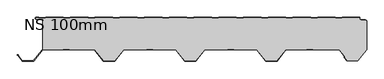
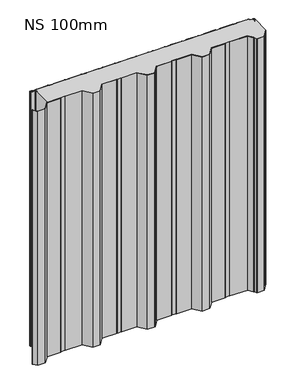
"""IFC4 building model written with IfcOpenShell, lengths in millimetres: plate geometry, KIP-MEX-KC-R19-CP-NS-SL : NS 100mm."""

from ifc_helpers import new_model, si_unit, point, frame, frame_2d, origin, origin_with_axes, place, context, project, spatial, polyline, circle_curve, trimmed, segment, composite_curve, outline, extrude, source, transform, mapped, element, save
from ifc_brep_helpers import plane_surface, cylinder_surface, revolved_surface, advanced_brep


def ns_100mm_bfbfd920(model_context):
    return source(origin(), model_context, "Body", "SolidModel", [
        advanced_brep(
        [(489.051258, -110.0327477, 1224.3718713), (491.4166419, -105.6292245, 1224.3718713), (492.2982989, -106.1011177, 1224.3718713), (489.8911639, -110.5823669, 1224.3718713), (498.3652789, -99.7971296, 1224.3718713), (498.3666923, -11.2514375, 1224.3718713), (496.0840542, -13.6351997, 1224.3718713), (490.2938452, -14.1562355, 1224.3718713), (490.2059002, -13.178913, 1224.3718713), (495.9395891, -12.6629632, 1224.3718713), (497.3642752, -10.8760369, 1224.3718713), (495.9342793, -8.8936988, 1224.3718713), (479.8720443, -7.4885937, 1224.3718713), (477.1334803, -4.5000049, 1224.3718713), (477.1334803, -1.0, 1224.3718713), (424.1786391, -1.0, 1224.3718713), (422.7930062, -2.2002307, 1224.3718713), (403.4178399, -2.2002307, 1224.3718713), (402.0322069, -1.0, 1224.3718713), (347.9787915, -1.0, 1224.3718713), (346.5931586, -2.2002307, 1224.3718713), (327.2179923, -2.2002307, 1224.3718713), (325.8323593, -1.0, 1224.3718713), (271.7789439, -1.0, 1224.3718713), (270.393311, -2.2002307, 1224.3718713), (251.0181447, -2.2002307, 1224.3718713), (249.6325117, -1.0, 1224.3718713), (195.5790963, -1.0, 1224.3718713), (194.1934634, -2.2002307, 1224.3718713), (174.8182971, -2.2002307, 1224.3718713), (173.4326641, -1.0, 1224.3718713), (119.3792487, -1.0, 1224.3718713), (117.9936158, -2.2002307, 1224.3718713), (98.6184495, -2.2002307, 1224.3718713), (97.2328165, -1.0, 1224.3718713), (43.1794011, -1.0, 1224.3718713), (41.7937682, -2.2002307, 1224.3718713), (22.4186019, -2.2002307, 1224.3718713), (21.0329689, -1.0, 1224.3718713), (-33.0204465, -1.0, 1224.3718713), (-34.4060794, -2.2002307, 1224.3718713), (-53.7812457, -2.2002307, 1224.3718713), (-55.1668787, -1.0, 1224.3718713), (-109.2202941, -1.0, 1224.3718713), (-110.605927, -2.2002307, 1224.3718713), (-129.9810933, -2.2002307, 1224.3718713), (-131.3667263, -1.0, 1224.3718713), (-185.4201417, -1.0, 1224.3718713), (-186.8057746, -2.2002307, 1224.3718713), (-206.1809409, -2.2002307, 1224.3718713), (-207.5665739, -1.0, 1224.3718713), (-261.6199893, -1.0, 1224.3718713), (-263.0056222, -2.2002307, 1224.3718713), (-282.3807885, -2.2002307, 1224.3718713), (-283.7664215, -1.0, 1224.3718713), (-337.8198369, -1.0, 1224.3718713), (-339.2054698, -2.2002307, 1224.3718713), (-358.5806361, -2.2002307, 1224.3718713), (-359.9662691, -1.0, 1224.3718713), (-414.0196845, -1.0, 1224.3718713), (-415.4053174, -2.2002307, 1224.3718713), (-434.7804837, -2.2002307, 1224.3718713), (-436.1661167, -1.0, 1224.3718713), (-490.2195321, -1.0, 1224.3718713), (-491.605165, -2.2002307, 1224.3718713), (-510.9803313, -2.2002307, 1224.3718713), (-512.365974, -0.9999916, 1224.3718713), (-520.8675386, -0.9999916, 1224.3718713), (-520.8675386, -2.4999198, 1224.3718713), (-518.3676343, -4.9998241, 1224.3718713), (-500.3670493, -4.9998241, 1224.3718713), (-497.3666912, -7.998082, 1224.3718713), (-497.3666912, -11.5943952, 1224.3718713), (-496.1253972, -13.0725686, 1224.3718713), (-492.5830624, -13.6943971, 1224.3718713), (-492.7559608, -14.6793372, 1224.3718713), (-496.2982963, -14.0575086, 1224.3718713), (-498.3666923, -11.5958694, 1224.3718713), (-498.3666923, -99.0, 1224.3718713), (-437.8440582, -99.0, 1224.3718713), (-436.4297751, -97.9999989, 1224.3718713), (-417.2222535, -97.9999989, 1224.3718713), (-415.8079704, -99.0, 1224.3718713), (-339.3089934, -99.0, 1224.3718713), (-311.8089635, -134.000038, 1224.3718713), (-277.7809961, -134.000038, 1224.3718713), (-250.2809663, -99.0, 1224.3718713), (-180.8128881, -99.0, 1224.3718713), (-179.398605, -97.9999989, 1224.3718713), (-160.1910833, -97.9999989, 1224.3718713), (-158.7768003, -99.0, 1224.3718713), (-89.3087221, -99.0, 1224.3718713), (-61.8086922, -134.000038, 1224.3718713), (-27.7807248, -134.000038, 1224.3718713), (-0.280695, -99.0, 1224.3718713), (69.1090864, -99.0, 1224.3718713), (70.1732653, -97.9999989, 1224.3718713), (89.809188, -97.9999989, 1224.3718713), (91.2234711, -99.0, 1224.3718713), (160.6915492, -99.0, 1224.3718713), (188.1915791, -134.000038, 1224.3718713), (222.2195465, -134.000038, 1224.3718713), (249.7195763, -99.0, 1224.3718713), (312.1567557, -99.0, 1224.3718713), (313.5710388, -97.9999989, 1224.3718713), (332.7785605, -97.9999989, 1224.3718713), (334.1928435, -99.0, 1224.3718713), (414.6918249, -99.0, 1224.3718713), (430.7058064, -119.3814311, 1224.3718713), (430.7058064, -123.199617, 1224.3718713), (438.4061363, -133.0000369, 1224.3718713), (471.0055308, -133.0000369, 1224.3718713), (489.051258, -110.0327477, 0.0), (471.0055308, -133.0000369, 0.0), (438.4061363, -133.0000369, 0.0), (430.7058064, -123.199617, 0.0), (430.7058064, -119.3814311, 0.0), (414.6918249, -99.0, 0.0), (334.1928435, -99.0, 0.0), (332.7785605, -97.9999989, 0.0), (313.5710388, -97.9999989, 0.0), (312.1567557, -99.0, 0.0), (249.7195763, -99.0, 0.0), (222.2195465, -134.000038, 0.0), (188.1915791, -134.000038, 0.0), (160.6915492, -99.0, 0.0), (91.2234711, -99.0, 0.0), (89.809188, -97.9999989, 0.0), (70.1732653, -97.9999989, 0.0), (69.1090864, -99.0, 0.0), (-0.280695, -99.0, 0.0), (-27.7807248, -134.000038, 0.0), (-61.8086922, -134.000038, 0.0), (-89.3087221, -99.0, 0.0), (-158.7768003, -99.0, 0.0), (-160.1910833, -97.9999989, 0.0), (-179.398605, -97.9999989, 0.0), (-180.8128881, -99.0, 0.0), (-250.2809663, -99.0, 0.0), (-277.7809961, -134.000038, 0.0), (-311.8089635, -134.000038, 0.0), (-339.3089934, -99.0, 0.0), (-415.8079704, -99.0, 0.0), (-417.2222535, -97.9999989, 0.0), (-436.4297751, -97.9999989, 0.0), (-437.8440582, -99.0, 0.0), (-498.3666923, -99.0, 0.0), (-498.3666923, -11.5958694, 0.0), (-496.2982963, -14.0575086, 0.0), (-492.7559608, -14.6793372, 0.0), (-492.5830624, -13.6943971, 0.0), (-496.1253972, -13.0725686, 0.0), (-497.3666912, -11.5943952, 0.0), (-497.3666912, -7.998082, 0.0), (-500.3670493, -4.9998241, 0.0), (-518.3676343, -4.9998241, 0.0), (-520.8675386, -2.4999198, 0.0), (-520.8675386, -0.9999916, 0.0), (-512.365974, -0.9999916, 0.0), (-510.9803313, -2.2002307, 0.0), (-491.605165, -2.2002307, 0.0), (-490.2195321, -1.0, 0.0), (-436.1661167, -1.0, 0.0), (-434.7804837, -2.2002307, 0.0), (-415.4053174, -2.2002307, 0.0), (-414.0196845, -1.0, 0.0), (-359.9662691, -1.0, 0.0), (-358.5806361, -2.2002307, 0.0), (-339.2054698, -2.2002307, 0.0), (-337.8198369, -1.0, 0.0), (-283.7664215, -1.0, 0.0), (-282.3807885, -2.2002307, 0.0), (-263.0056222, -2.2002307, 0.0), (-261.6199893, -1.0, 0.0), (-207.5665739, -1.0, 0.0), (-206.1809409, -2.2002307, 0.0), (-186.8057746, -2.2002307, 0.0), (-185.4201417, -1.0, 0.0), (-131.3667263, -1.0, 0.0), (-129.9810933, -2.2002307, 0.0), (-110.605927, -2.2002307, 0.0), (-109.2202941, -1.0, 0.0), (-55.1668787, -1.0, 0.0), (-53.7812457, -2.2002307, 0.0), (-34.4060794, -2.2002307, 0.0), (-33.0204465, -1.0, 0.0), (21.0329689, -1.0, 0.0), (22.4186019, -2.2002307, 0.0), (41.7937682, -2.2002307, 0.0), (43.1794011, -1.0, 0.0), (97.2328165, -1.0, 0.0), (98.6184495, -2.2002307, 0.0), (117.9936158, -2.2002307, 0.0), (119.3792487, -1.0, 0.0), (173.4326641, -1.0, 0.0), (174.8182971, -2.2002307, 0.0), (194.1934634, -2.2002307, 0.0), (195.5790963, -1.0, 0.0), (249.6325117, -1.0, 0.0), (251.0181447, -2.2002307, 0.0), (270.393311, -2.2002307, 0.0), (271.7789439, -1.0, 0.0), (325.8323593, -1.0, 0.0), (327.2179923, -2.2002307, 0.0), (346.5931586, -2.2002307, 0.0), (347.9787915, -1.0, 0.0), (402.0322069, -1.0, 0.0), (403.4178399, -2.2002307, 0.0), (422.7930062, -2.2002307, 0.0), (424.1786391, -1.0, 0.0), (477.1334803, -1.0, 0.0), (477.1334803, -4.5000049, 0.0), (479.8720443, -7.4885937, 0.0), (495.9342793, -8.8936988, 0.0), (497.3642752, -10.8760369, 0.0), (495.9395891, -12.6629632, 0.0), (490.2059002, -13.178913, 0.0), (490.2938452, -14.1562355, 0.0), (496.0840542, -13.6351997, 0.0), (498.3666923, -11.2514375, 0.0), (498.3652789, -99.7971296, 0.0), (489.8911639, -110.5823669, 0.0), (492.2982989, -106.1011177, 0.0), (491.4166419, -105.6292245, 0.0)],
        [
            (0, 1),
            (1, 2),
            (2, 3),
            (3, 4),
            (4, 5),
            (5, 6, circle_curve(frame((495.5554081, -10.8441969, 1224.3718713), z_axis=(0.0, 0.0, -1.0), x_axis=(0.0, -1.0, 0.0)), 2.8406273)),
            (6, 7),
            (7, 8),
            (8, 9),
            (9, 10, circle_curve(frame((495.560247, -10.8991179, 1224.3718713), z_axis=(0.0, 0.0, 1.0), x_axis=(0.0, -1.0, 0.0)), 1.8041759)),
            (10, 11, circle_curve(frame((495.5292107, -10.6928483, 1224.3718713), z_axis=(0.0, 0.0, 1.0), x_axis=(0.0, -1.0, 0.0)), 1.8441854)),
            (11, 12),
            (12, 13, circle_curve(frame((480.1334825, -4.5000049, 1224.3718713), z_axis=(0.0, 0.0, -1.0), x_axis=(0.0, -1.0, 0.0)), 3.0000022)),
            (13, 14),
            (14, 15),
            (15, 16),
            (16, 17),
            (17, 18),
            (18, 19),
            (19, 20),
            (20, 21),
            (21, 22),
            (22, 23),
            (23, 24),
            (24, 25),
            (25, 26),
            (26, 27),
            (27, 28),
            (28, 29),
            (29, 30),
            (30, 31),
            (31, 32),
            (32, 33),
            (33, 34),
            (34, 35),
            (35, 36),
            (36, 37),
            (37, 38),
            (38, 39),
            (39, 40),
            (40, 41),
            (41, 42),
            (42, 43),
            (43, 44),
            (44, 45),
            (45, 46),
            (46, 47),
            (47, 48),
            (48, 49),
            (49, 50),
            (50, 51),
            (51, 52),
            (52, 53),
            (53, 54),
            (54, 55),
            (55, 56),
            (56, 57),
            (57, 58),
            (58, 59),
            (59, 60),
            (60, 61),
            (61, 62),
            (62, 63),
            (63, 64),
            (64, 65),
            (65, 66),
            (66, 67),
            (67, 68),
            (68, 69, circle_curve(frame((-518.3676343, -2.4999198, 1224.3718713), z_axis=(0.0, 0.0, 1.0), x_axis=(0.0, -1.0, 0.0)), 2.4999043)),
            (69, 70),
            (70, 71, circle_curve(frame((-500.3670493, -8.0001829, 1224.3718713), z_axis=(0.0, 0.0, -1.0), x_axis=(0.0, -1.0, 0.0)), 3.0003589)),
            (71, 72),
            (72, 73, circle_curve(frame((-495.8659157, -11.5943952, 1224.3718713), z_axis=(0.0, 0.0, 1.0), x_axis=(0.0, -1.0, 0.0)), 1.5007755)),
            (73, 74),
            (74, 75),
            (75, 76),
            (76, 77, circle_curve(frame((-495.8659164, -11.5943948, 1224.3718713), z_axis=(0.0, 0.0, -1.0), x_axis=(0.0, -1.0, 0.0)), 2.5007762)),
            (77, 78),
            (78, 79),
            (79, 80),
            (80, 81),
            (81, 82),
            (82, 83),
            (83, 84),
            (84, 85),
            (85, 86),
            (86, 87),
            (87, 88),
            (88, 89),
            (89, 90),
            (90, 91),
            (91, 92),
            (92, 93),
            (93, 94),
            (94, 95),
            (95, 96),
            (96, 97),
            (97, 98),
            (98, 99),
            (99, 100),
            (100, 101),
            (101, 102),
            (102, 103),
            (103, 104),
            (104, 105),
            (105, 106),
            (106, 107),
            (107, 108),
            (108, 109),
            (109, 110),
            (110, 111),
            (111, 0),
            (112, 113),
            (113, 114),
            (114, 115),
            (115, 116),
            (116, 117),
            (117, 118),
            (118, 119),
            (119, 120),
            (120, 121),
            (121, 122),
            (122, 123),
            (123, 124),
            (124, 125),
            (125, 126),
            (126, 127),
            (127, 128),
            (128, 129),
            (129, 130),
            (130, 131),
            (131, 132),
            (132, 133),
            (133, 134),
            (134, 135),
            (135, 136),
            (136, 137),
            (137, 138),
            (138, 139),
            (139, 140),
            (140, 141),
            (141, 142),
            (142, 143),
            (143, 144),
            (144, 145),
            (145, 146),
            (146, 147),
            (147, 148, circle_curve(frame((-495.8659164, -11.5943948, 0.0), z_axis=(0.0, 0.0, 1.0), x_axis=(0.0, -1.0, 0.0)), 2.5007762)),
            (148, 149),
            (149, 150),
            (150, 151),
            (151, 152, circle_curve(frame((-495.8659157, -11.5943952, 0.0), z_axis=(0.0, 0.0, -1.0), x_axis=(0.0, -1.0, 0.0)), 1.5007755)),
            (152, 153),
            (153, 154, circle_curve(frame((-500.3670493, -8.0001829, 0.0), z_axis=(0.0, 0.0, 1.0), x_axis=(0.0, -1.0, 0.0)), 3.0003589)),
            (154, 155),
            (155, 156, circle_curve(frame((-518.3676343, -2.4999198, 0.0), z_axis=(0.0, 0.0, -1.0), x_axis=(0.0, -1.0, 0.0)), 2.4999043)),
            (156, 157),
            (157, 158),
            (158, 159),
            (159, 160),
            (160, 161),
            (161, 162),
            (162, 163),
            (163, 164),
            (164, 165),
            (165, 166),
            (166, 167),
            (167, 168),
            (168, 169),
            (169, 170),
            (170, 171),
            (171, 172),
            (172, 173),
            (173, 174),
            (174, 175),
            (175, 176),
            (176, 177),
            (177, 178),
            (178, 179),
            (179, 180),
            (180, 181),
            (181, 182),
            (182, 183),
            (183, 184),
            (184, 185),
            (185, 186),
            (186, 187),
            (187, 188),
            (188, 189),
            (189, 190),
            (190, 191),
            (191, 192),
            (192, 193),
            (193, 194),
            (194, 195),
            (195, 196),
            (196, 197),
            (197, 198),
            (198, 199),
            (199, 200),
            (200, 201),
            (201, 202),
            (202, 203),
            (203, 204),
            (204, 205),
            (205, 206),
            (206, 207),
            (207, 208),
            (208, 209),
            (209, 210),
            (210, 211),
            (211, 212, circle_curve(frame((480.1334825, -4.5000049, 0.0), z_axis=(0.0, 0.0, 1.0), x_axis=(0.0, -1.0, 0.0)), 3.0000022)),
            (212, 213),
            (213, 214, circle_curve(frame((495.5292107, -10.6928483, 0.0), z_axis=(0.0, 0.0, -1.0), x_axis=(0.0, -1.0, 0.0)), 1.8441854)),
            (214, 215, circle_curve(frame((495.560247, -10.8991179, 0.0), z_axis=(0.0, 0.0, -1.0), x_axis=(0.0, -1.0, 0.0)), 1.8041759)),
            (215, 216),
            (216, 217),
            (217, 218),
            (218, 219, circle_curve(frame((495.5554081, -10.8441969, 0.0), z_axis=(0.0, 0.0, 1.0), x_axis=(0.0, -1.0, 0.0)), 2.8406273)),
            (219, 220),
            (220, 221),
            (221, 222),
            (222, 223),
            (223, 112),
            (0, 112),
            (223, 1),
            (111, 113),
            (110, 114),
            (109, 115),
            (108, 116),
            (107, 117),
            (106, 118),
            (105, 119),
            (104, 120),
            (103, 121),
            (102, 122),
            (101, 123),
            (100, 124),
            (99, 125),
            (98, 126),
            (97, 127),
            (96, 128),
            (95, 129),
            (94, 130),
            (93, 131),
            (92, 132),
            (91, 133),
            (90, 134),
            (89, 135),
            (88, 136),
            (87, 137),
            (86, 138),
            (85, 139),
            (84, 140),
            (83, 141),
            (82, 142),
            (81, 143),
            (80, 144),
            (79, 145),
            (78, 146),
            (2, 222),
            (221, 3),
            (220, 4),
            (219, 5),
            (77, 147),
            (73, 151),
            (150, 74),
            (72, 152),
            (71, 153),
            (70, 154),
            (69, 155),
            (68, 156),
            (67, 157),
            (13, 211),
            (210, 14),
            (12, 212),
            (11, 213),
            (10, 214),
            (9, 215),
            (8, 216),
            (7, 217),
            (6, 218),
            (76, 148),
            (75, 149),
            (66, 158),
            (65, 159),
            (64, 160),
            (63, 161),
            (62, 162),
            (61, 163),
            (60, 164),
            (59, 165),
            (58, 166),
            (57, 167),
            (56, 168),
            (55, 169),
            (54, 170),
            (53, 171),
            (52, 172),
            (51, 173),
            (50, 174),
            (49, 175),
            (48, 176),
            (47, 177),
            (46, 178),
            (45, 179),
            (44, 180),
            (43, 181),
            (42, 182),
            (41, 183),
            (40, 184),
            (39, 185),
            (38, 186),
            (37, 187),
            (36, 188),
            (35, 189),
            (34, 190),
            (33, 191),
            (32, 192),
            (31, 193),
            (30, 194),
            (29, 195),
            (28, 196),
            (27, 197),
            (26, 198),
            (25, 199),
            (24, 200),
            (23, 201),
            (22, 202),
            (21, 203),
            (20, 204),
            (19, 205),
            (18, 206),
            (17, 207),
            (16, 208),
            (15, 209),
        ],
        [
            plane_surface(frame((0.0, -99.0, 1224.3718713), z_axis=(0.0, 0.0, 1.0), x_axis=(0.0, -1.0, 0.0))),
            plane_surface(frame((0.0, -99.0, 0.0), z_axis=(0.0, 0.0, -1.0), x_axis=(0.0, -1.0, 0.0))),
            plane_surface(frame((491.4166419, -105.6292245, 1224.3718713), z_axis=(0.8809503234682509, -0.4732087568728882, 0.0), x_axis=(0.0, 0.0, -1.0))),
            plane_surface(frame((489.051258, -110.0327477, 1224.3718713), z_axis=(0.7863183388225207, -0.6178215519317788, 0.0), x_axis=(0.0, 0.0, -1.0))),
            plane_surface(frame((471.0055308, -133.0000369, 1224.3718713), z_axis=(0.0, -1.0, 0.0), x_axis=(0.0, 0.0, -1.0))),
            plane_surface(frame((438.4061363, -133.0000369, 1224.3718713), z_axis=(-0.7863183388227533, -0.6178215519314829, 0.0), x_axis=(0.0, 0.0, -1.0))),
            plane_surface(frame((430.7058064, -123.199617, 1224.3718713), z_axis=(-1.0, 0.0, 0.0), x_axis=(0.0, 0.0, -1.0))),
            plane_surface(frame((430.7058064, -119.3814311, 1224.3718713), z_axis=(-0.7863183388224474, -0.6178215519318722, 0.0), x_axis=(0.0, 0.0, -1.0))),
            plane_surface(frame((414.6918249, -99.0, 1224.3718713), z_axis=(0.0, -1.0, 0.0), x_axis=(0.0, 0.0, -1.0))),
            plane_surface(frame((334.1928435, -99.0, 1224.3718713), z_axis=(-0.5773317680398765, -0.8165096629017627, 0.0), x_axis=(0.0, 0.0, -1.0))),
            plane_surface(frame((332.7785605, -97.9999989, 1224.3718713), z_axis=(0.0, -1.0, 0.0), x_axis=(0.0, 0.0, -1.0))),
            plane_surface(frame((313.5710388, -97.9999989, 1224.3718713), z_axis=(0.5773317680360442, -0.8165096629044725, 0.0), x_axis=(0.0, 0.0, -1.0))),
            plane_surface(frame((312.1567557, -99.0, 1224.3718713), z_axis=(0.0, -1.0, 0.0), x_axis=(0.0, 0.0, -1.0))),
            plane_surface(frame((249.7195763, -99.0, 1224.3718713), z_axis=(0.7863183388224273, -0.6178215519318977, 0.0), x_axis=(0.0, 0.0, -1.0))),
            plane_surface(frame((222.2195465, -134.000038, 1224.3718713), z_axis=(0.0, -1.0, 0.0), x_axis=(0.0, 0.0, -1.0))),
            plane_surface(frame((188.1915791, -134.000038, 1224.3718713), z_axis=(-0.7863183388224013, -0.6178215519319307, 0.0), x_axis=(0.0, 0.0, -1.0))),
            plane_surface(frame((160.6915492, -99.0, 1224.3718713), z_axis=(0.0, -1.0, 0.0), x_axis=(0.0, 0.0, -1.0))),
            plane_surface(frame((91.2234711, -99.0, 1224.3718713), z_axis=(-0.5773317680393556, -0.8165096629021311, 0.0), x_axis=(0.0, 0.0, -1.0))),
            plane_surface(frame((89.809188, -97.9999989, 1224.3718713), z_axis=(0.0, -1.0, 0.0), x_axis=(0.0, 0.0, -1.0))),
            plane_surface(frame((70.1732653, -97.9999989, 1224.3718713), z_axis=(0.6847910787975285, -0.7287394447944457, 0.0), x_axis=(0.0, 0.0, -1.0))),
            plane_surface(frame((69.1090864, -99.0, 1224.3718713), z_axis=(0.0, -1.0, 0.0), x_axis=(0.0, 0.0, -1.0))),
            plane_surface(frame((-0.280695, -99.0, 1224.3718713), z_axis=(0.7863183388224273, -0.6178215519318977, 0.0), x_axis=(0.0, 0.0, -1.0))),
            plane_surface(frame((-27.7807248, -134.000038, 1224.3718713), z_axis=(0.0, -1.0, 0.0), x_axis=(0.0, 0.0, -1.0))),
            plane_surface(frame((-61.8086922, -134.000038, 1224.3718713), z_axis=(-0.786318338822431, -0.617821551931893, 0.0), x_axis=(0.0, 0.0, -1.0))),
            plane_surface(frame((-89.3087221, -99.0, 1224.3718713), z_axis=(0.0, -1.0, 0.0), x_axis=(0.0, 0.0, -1.0))),
            plane_surface(frame((-158.7768003, -99.0, 1224.3718713), z_axis=(-0.5773317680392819, -0.8165096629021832, 0.0), x_axis=(0.0, 0.0, -1.0))),
            plane_surface(frame((-160.1910833, -97.9999989, 1224.3718713), z_axis=(0.0, -1.0, 0.0), x_axis=(0.0, 0.0, -1.0))),
            plane_surface(frame((-179.398605, -97.9999989, 1224.3718713), z_axis=(0.577331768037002, -0.8165096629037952, 0.0), x_axis=(0.0, 0.0, -1.0))),
            plane_surface(frame((-180.8128881, -99.0, 1224.3718713), z_axis=(0.0, -1.0, 0.0), x_axis=(0.0, 0.0, -1.0))),
            plane_surface(frame((-250.2809663, -99.0, 1224.3718713), z_axis=(0.7863183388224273, -0.6178215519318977, 0.0), x_axis=(0.0, 0.0, -1.0))),
            plane_surface(frame((-277.7809961, -134.000038, 1224.3718713), z_axis=(0.0, -1.0, 0.0), x_axis=(0.0, 0.0, -1.0))),
            plane_surface(frame((-311.8089635, -134.000038, 1224.3718713), z_axis=(-0.7863183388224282, -0.6178215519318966, 0.0), x_axis=(0.0, 0.0, -1.0))),
            plane_surface(frame((-339.3089934, -99.0, 1224.3718713), z_axis=(0.0, -1.0, 0.0), x_axis=(0.0, 0.0, -1.0))),
            plane_surface(frame((-415.8079704, -99.0, 1224.3718713), z_axis=(-0.577331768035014, -0.8165096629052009, 0.0), x_axis=(0.0, 0.0, -1.0))),
            plane_surface(frame((-417.2222535, -97.9999989, 1224.3718713), z_axis=(0.0, -1.0, 0.0), x_axis=(0.0, 0.0, -1.0))),
            plane_surface(frame((-436.4297751, -97.9999989, 1224.3718713), z_axis=(0.577331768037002, -0.8165096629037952, 0.0), x_axis=(0.0, 0.0, -1.0))),
            plane_surface(frame((-437.8440582, -99.0, 1224.3718713), z_axis=(0.0, -1.0, 0.0), x_axis=(0.0, 0.0, -1.0))),
            plane_surface(frame((489.8911639, -110.5823669, 1224.3718713), z_axis=(-0.8809503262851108, 0.4732087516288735, 0.0), x_axis=(0.0, 0.0, -1.0))),
            plane_surface(frame((492.2982989, -106.1011177, 1224.3718713), z_axis=(-0.4718927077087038, -0.8816559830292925, 0.0), x_axis=(0.0, 0.0, -1.0))),
            plane_surface(frame((498.3652789, -99.7971296, 1224.3718713), z_axis=(0.7863183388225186, -0.6178215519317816, 0.0), x_axis=(0.0, 0.0, -1.0))),
            plane_surface(frame((498.3652789, -94.8065083, 1224.3718713), z_axis=(1.0, 0.0, 0.0), x_axis=(0.0, 0.0, -1.0))),
            plane_surface(frame((-498.3666923, -99.0, 1224.3718713), z_axis=(-1.0, 0.0, 0.0), x_axis=(0.0, 0.0, -1.0))),
            plane_surface(frame((-492.5830624, -13.6943971, 1224.3718713), z_axis=(-0.17289827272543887, -0.9849396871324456, 0.0), x_axis=(0.0, 0.0, -1.0))),
            cylinder_surface(frame((-495.8659157, -11.5943952, 1224.3718713), z_axis=(0.0, 0.0, 1.0), x_axis=(0.0, -1.0, 0.0)), 1.5007755),
            plane_surface(frame((-497.3666912, -11.5943952, 1224.3718713), z_axis=(-1.0, 0.0, 0.0), x_axis=(0.0, 0.0, -1.0))),
            revolved_surface(polyline([(-500.3670493, -11.0005418, 0.0), (-500.3670493, -11.0005418, 1224.3718713)]), (-500.3670493, -8.0001829, 1224.3718713), (0.0, 0.0, -1.0)),
            plane_surface(frame((-500.3670493, -4.9998241, 1224.3718713), z_axis=(0.0, -1.0, 0.0), x_axis=(0.0, 0.0, -1.0))),
            cylinder_surface(frame((-518.3676343, -2.4999198, 1224.3718713), z_axis=(0.0, 0.0, 1.0), x_axis=(0.0, -1.0, 0.0)), 2.4999043),
            plane_surface(frame((-520.8675386, -2.4999198, 1224.3718713), z_axis=(-1.0, 0.0, 0.0), x_axis=(0.0, 0.0, -1.0))),
            plane_surface(frame((477.1334803, -1.0, 1224.3718713), z_axis=(1.0, 0.0, 0.0), x_axis=(0.0, 0.0, -1.0))),
            revolved_surface(polyline([(480.1334825, -7.5000071, 0.0), (480.1334825, -7.5000071, 1224.3718713)]), (480.1334825, -4.5000049, 1224.3718713), (0.0, 0.0, -1.0)),
            plane_surface(frame((479.8720443, -7.4885937, 1224.3718713), z_axis=(0.0871459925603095, 0.9961955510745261, 0.0), x_axis=(0.0, 0.0, -1.0))),
            cylinder_surface(frame((495.5292107, -10.6928483, 1224.3718713), z_axis=(0.0, 0.0, 1.0), x_axis=(0.0, -1.0, 0.0)), 1.8441854),
            cylinder_surface(frame((495.560247, -10.8991179, 1224.3718713), z_axis=(0.0, 0.0, 1.0), x_axis=(0.0, -1.0, 0.0)), 1.8041759),
            plane_surface(frame((495.9395891, -12.6629632, 1224.3718713), z_axis=(0.0896235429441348, -0.995975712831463, 0.0), x_axis=(0.0, 0.0, -1.0))),
            plane_surface(frame((490.2059002, -13.178913, 1224.3718713), z_axis=(0.9959757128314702, 0.08962354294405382, 0.0), x_axis=(0.0, 0.0, -1.0))),
            plane_surface(frame((490.2938452, -14.1562355, 1224.3718713), z_axis=(-0.0896235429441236, 0.995975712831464, 0.0), x_axis=(0.0, 0.0, -1.0))),
            revolved_surface(polyline([(495.5554081, -13.6848242, 0.0), (495.5554081, -13.6848242, 1224.3718713)]), (495.5554081, -10.8441969, 1224.3718713), (0.0, 0.0, -1.0)),
            revolved_surface(polyline([(-495.8659164, -14.095171, 0.0), (-495.8659164, -14.095171, 1224.3718713)]), (-495.8659164, -11.5943948, 1224.3718713), (0.0, 0.0, -1.0)),
            plane_surface(frame((-496.2982963, -14.0575086, 1224.3718713), z_axis=(0.17289827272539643, 0.9849396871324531, 0.0), x_axis=(0.0, 0.0, -1.0))),
            plane_surface(frame((-492.7559608, -14.6793372, 1224.3718713), z_axis=(-0.9849396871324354, 0.1728982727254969, 0.0), x_axis=(0.0, 0.0, -1.0))),
            plane_surface(frame((-520.8675386, -0.9999916, 1224.3718713), z_axis=(0.0, 1.0, 0.0), x_axis=(0.0, 0.0, -1.0))),
            plane_surface(frame((-512.365974, -0.9999916, 1224.3718713), z_axis=(0.6547276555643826, 0.7558648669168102, 0.0), x_axis=(0.0, 0.0, -1.0))),
            plane_surface(frame((-510.9803313, -2.2002307, 1224.3718713), z_axis=(0.0, 1.0, 0.0), x_axis=(0.0, 0.0, -1.0))),
            plane_surface(frame((-491.605165, -2.2002307, 1224.3718713), z_axis=(-0.6547276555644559, 0.7558648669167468, 0.0), x_axis=(0.0, 0.0, -1.0))),
            plane_surface(frame((-490.2195321, -1.0, 1224.3718713), z_axis=(0.0, 1.0, 0.0), x_axis=(0.0, 0.0, -1.0))),
            plane_surface(frame((-436.1661167, -1.0, 1224.3718713), z_axis=(0.6547276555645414, 0.7558648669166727, 0.0), x_axis=(0.0, 0.0, -1.0))),
            plane_surface(frame((-434.7804837, -2.2002307, 1224.3718713), z_axis=(0.0, 1.0, 0.0), x_axis=(0.0, 0.0, -1.0))),
            plane_surface(frame((-415.4053174, -2.2002307, 1224.3718713), z_axis=(-0.6547276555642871, 0.755864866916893, 0.0), x_axis=(0.0, 0.0, -1.0))),
            plane_surface(frame((-414.0196845, -1.0, 1224.3718713), z_axis=(0.0, 1.0, 0.0), x_axis=(0.0, 0.0, -1.0))),
            plane_surface(frame((-359.9662691, -1.0, 1224.3718713), z_axis=(0.6547276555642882, 0.7558648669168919, 0.0), x_axis=(0.0, 0.0, -1.0))),
            plane_surface(frame((-358.5806361, -2.2002307, 1224.3718713), z_axis=(0.0, 1.0, 0.0), x_axis=(0.0, 0.0, -1.0))),
            plane_surface(frame((-339.2054698, -2.2002307, 1224.3718713), z_axis=(-0.6547276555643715, 0.7558648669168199, 0.0), x_axis=(0.0, 0.0, -1.0))),
            plane_surface(frame((-337.8198369, -1.0, 1224.3718713), z_axis=(0.0, 1.0, 0.0), x_axis=(0.0, 0.0, -1.0))),
            plane_surface(frame((-283.7664215, -1.0, 1224.3718713), z_axis=(0.6547276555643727, 0.7558648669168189, 0.0), x_axis=(0.0, 0.0, -1.0))),
            plane_surface(frame((-282.3807885, -2.2002307, 1224.3718713), z_axis=(0.0, 1.0, 0.0), x_axis=(0.0, 0.0, -1.0))),
            plane_surface(frame((-263.0056222, -2.2002307, 1224.3718713), z_axis=(-0.6547276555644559, 0.7558648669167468, 0.0), x_axis=(0.0, 0.0, -1.0))),
            plane_surface(frame((-261.6199893, -1.0, 1224.3718713), z_axis=(0.0, 1.0, 0.0), x_axis=(0.0, 0.0, -1.0))),
            plane_surface(frame((-207.5665739, -1.0, 1224.3718713), z_axis=(0.654727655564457, 0.7558648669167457, 0.0), x_axis=(0.0, 0.0, -1.0))),
            plane_surface(frame((-206.1809409, -2.2002307, 1224.3718713), z_axis=(0.0, 1.0, 0.0), x_axis=(0.0, 0.0, -1.0))),
            plane_surface(frame((-186.8057746, -2.2002307, 1224.3718713), z_axis=(-0.6547276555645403, 0.7558648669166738, 0.0), x_axis=(0.0, 0.0, -1.0))),
            plane_surface(frame((-185.4201417, -1.0, 1224.3718713), z_axis=(0.0, 1.0, 0.0), x_axis=(0.0, 0.0, -1.0))),
            plane_surface(frame((-131.3667263, -1.0, 1224.3718713), z_axis=(0.6547276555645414, 0.7558648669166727, 0.0), x_axis=(0.0, 0.0, -1.0))),
            plane_surface(frame((-129.9810933, -2.2002307, 1224.3718713), z_axis=(0.0, 1.0, 0.0), x_axis=(0.0, 0.0, -1.0))),
            plane_surface(frame((-110.605927, -2.2002307, 1224.3718713), z_axis=(-0.6547276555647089, 0.7558648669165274, 0.0), x_axis=(0.0, 0.0, -1.0))),
            plane_surface(frame((-109.2202941, -1.0, 1224.3718713), z_axis=(0.0, 1.0, 0.0), x_axis=(0.0, 0.0, -1.0))),
            plane_surface(frame((-55.1668787, -1.0, 1224.3718713), z_axis=(0.6547276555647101, 0.7558648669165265, 0.0), x_axis=(0.0, 0.0, -1.0))),
            plane_surface(frame((-53.7812457, -2.2002307, 1224.3718713), z_axis=(0.0, 1.0, 0.0), x_axis=(0.0, 0.0, -1.0))),
            plane_surface(frame((-34.4060794, -2.2002307, 1224.3718713), z_axis=(-0.6547276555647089, 0.7558648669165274, 0.0), x_axis=(0.0, 0.0, -1.0))),
            plane_surface(frame((-33.0204465, -1.0, 1224.3718713), z_axis=(0.0, 1.0, 0.0), x_axis=(0.0, 0.0, -1.0))),
            plane_surface(frame((21.0329689, -1.0, 1224.3718713), z_axis=(0.6547276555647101, 0.7558648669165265, 0.0), x_axis=(0.0, 0.0, -1.0))),
            plane_surface(frame((22.4186019, -2.2002307, 1224.3718713), z_axis=(0.0, 1.0, 0.0), x_axis=(0.0, 0.0, -1.0))),
            plane_surface(frame((41.7937682, -2.2002307, 1224.3718713), z_axis=(-0.6547276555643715, 0.7558648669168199, 0.0), x_axis=(0.0, 0.0, -1.0))),
            plane_surface(frame((43.1794011, -1.0, 1224.3718713), z_axis=(0.0, 1.0, 0.0), x_axis=(0.0, 0.0, -1.0))),
            plane_surface(frame((97.2328165, -1.0, 1224.3718713), z_axis=(0.6547276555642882, 0.7558648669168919, 0.0), x_axis=(0.0, 0.0, -1.0))),
            plane_surface(frame((98.6184495, -2.2002307, 1224.3718713), z_axis=(0.0, 1.0, 0.0), x_axis=(0.0, 0.0, -1.0))),
            plane_surface(frame((117.9936158, -2.2002307, 1224.3718713), z_axis=(-0.6547276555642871, 0.755864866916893, 0.0), x_axis=(0.0, 0.0, -1.0))),
            plane_surface(frame((119.3792487, -1.0, 1224.3718713), z_axis=(0.0, 1.0, 0.0), x_axis=(0.0, 0.0, -1.0))),
            plane_surface(frame((173.4326641, -1.0, 1224.3718713), z_axis=(0.6547276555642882, 0.7558648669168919, 0.0), x_axis=(0.0, 0.0, -1.0))),
            plane_surface(frame((174.8182971, -2.2002307, 1224.3718713), z_axis=(0.0, 1.0, 0.0), x_axis=(0.0, 0.0, -1.0))),
            plane_surface(frame((194.1934634, -2.2002307, 1224.3718713), z_axis=(-0.6547276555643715, 0.7558648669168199, 0.0), x_axis=(0.0, 0.0, -1.0))),
            plane_surface(frame((195.5790963, -1.0, 1224.3718713), z_axis=(0.0, 1.0, 0.0), x_axis=(0.0, 0.0, -1.0))),
            plane_surface(frame((249.6325117, -1.0, 1224.3718713), z_axis=(0.6547276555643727, 0.7558648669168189, 0.0), x_axis=(0.0, 0.0, -1.0))),
            plane_surface(frame((251.0181447, -2.2002307, 1224.3718713), z_axis=(0.0, 1.0, 0.0), x_axis=(0.0, 0.0, -1.0))),
            plane_surface(frame((270.393311, -2.2002307, 1224.3718713), z_axis=(-0.6547276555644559, 0.7558648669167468, 0.0), x_axis=(0.0, 0.0, -1.0))),
            plane_surface(frame((271.7789439, -1.0, 1224.3718713), z_axis=(0.0, 1.0, 0.0), x_axis=(0.0, 0.0, -1.0))),
            plane_surface(frame((325.8323593, -1.0, 1224.3718713), z_axis=(0.654727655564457, 0.7558648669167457, 0.0), x_axis=(0.0, 0.0, -1.0))),
            plane_surface(frame((327.2179923, -2.2002307, 1224.3718713), z_axis=(0.0, 1.0, 0.0), x_axis=(0.0, 0.0, -1.0))),
            plane_surface(frame((346.5931586, -2.2002307, 1224.3718713), z_axis=(-0.6547276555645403, 0.7558648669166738, 0.0), x_axis=(0.0, 0.0, -1.0))),
            plane_surface(frame((347.9787915, -1.0, 1224.3718713), z_axis=(0.0, 1.0, 0.0), x_axis=(0.0, 0.0, -1.0))),
            plane_surface(frame((402.0322069, -1.0, 1224.3718713), z_axis=(0.6547276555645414, 0.7558648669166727, 0.0), x_axis=(0.0, 0.0, -1.0))),
            plane_surface(frame((403.4178399, -2.2002307, 1224.3718713), z_axis=(0.0, 1.0, 0.0), x_axis=(0.0, 0.0, -1.0))),
            plane_surface(frame((422.7930062, -2.2002307, 1224.3718713), z_axis=(-0.6547276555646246, 0.7558648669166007, 0.0), x_axis=(0.0, 0.0, -1.0))),
            plane_surface(frame((424.1786391, -1.0, 1224.3718713), z_axis=(0.0, 1.0, 0.0), x_axis=(0.0, 0.0, -1.0))),
        ],
        [
            (0, [[1, 2, 3, 4, 5, 6, 7, 8, 9, 10, 11, 12, 13, 14, 15, 16, 17, 18, 19, 20, 21, 22, 23, 24, 25, 26, 27, 28, 29, 30, 31, 32, 33, 34, 35, 36, 37, 38, 39, 40, 41, 42, 43, 44, 45, 46, 47, 48, 49, 50, 51, 52, 53, 54, 55, 56, 57, 58, 59, 60, 61, 62, 63, 64, 65, 66, 67, 68, 69, 70, 71, 72, 73, 74, 75, 76, 77, 78, 79, 80, 81, 82, 83, 84, 85, 86, 87, 88, 89, 90, 91, 92, 93, 94, 95, 96, 97, 98, 99, 100, 101, 102, 103, 104, 105, 106, 107, 108, 109, 110, 111, 112]]),
            (1, [[113, 114, 115, 116, 117, 118, 119, 120, 121, 122, 123, 124, 125, 126, 127, 128, 129, 130, 131, 132, 133, 134, 135, 136, 137, 138, 139, 140, 141, 142, 143, 144, 145, 146, 147, 148, 149, 150, 151, 152, 153, 154, 155, 156, 157, 158, 159, 160, 161, 162, 163, 164, 165, 166, 167, 168, 169, 170, 171, 172, 173, 174, 175, 176, 177, 178, 179, 180, 181, 182, 183, 184, 185, 186, 187, 188, 189, 190, 191, 192, 193, 194, 195, 196, 197, 198, 199, 200, 201, 202, 203, 204, 205, 206, 207, 208, 209, 210, 211, 212, 213, 214, 215, 216, 217, 218, 219, 220, 221, 222, 223, 224]]),
            (2, [[225, -224, 226, -1]]),
            (3, [[227, -113, -225, -112]]),
            (4, [[228, -114, -227, -111]]),
            (5, [[229, -115, -228, -110]]),
            (6, [[230, -116, -229, -109]]),
            (7, [[231, -117, -230, -108]]),
            (8, [[232, -118, -231, -107]]),
            (9, [[233, -119, -232, -106]]),
            (10, [[234, -120, -233, -105]]),
            (11, [[235, -121, -234, -104]]),
            (12, [[236, -122, -235, -103]]),
            (13, [[237, -123, -236, -102]]),
            (14, [[238, -124, -237, -101]]),
            (15, [[239, -125, -238, -100]]),
            (16, [[240, -126, -239, -99]]),
            (17, [[241, -127, -240, -98]]),
            (18, [[242, -128, -241, -97]]),
            (19, [[243, -129, -242, -96]]),
            (20, [[244, -130, -243, -95]]),
            (21, [[245, -131, -244, -94]]),
            (22, [[246, -132, -245, -93]]),
            (23, [[247, -133, -246, -92]]),
            (24, [[248, -134, -247, -91]]),
            (25, [[249, -135, -248, -90]]),
            (26, [[250, -136, -249, -89]]),
            (27, [[251, -137, -250, -88]]),
            (28, [[252, -138, -251, -87]]),
            (29, [[253, -139, -252, -86]]),
            (30, [[254, -140, -253, -85]]),
            (31, [[255, -141, -254, -84]]),
            (32, [[256, -142, -255, -83]]),
            (33, [[257, -143, -256, -82]]),
            (34, [[258, -144, -257, -81]]),
            (35, [[259, -145, -258, -80]]),
            (36, [[260, -146, -259, -79]]),
            (37, [[261, -222, 262, -3]]),
            (38, [[-226, -223, -261, -2]]),
            (39, [[-262, -221, 263, -4]]),
            (40, [[-263, -220, 264, -5]]),
            (41, [[265, -147, -260, -78]]),
            (42, [[266, -151, 267, -74]]),
            (43, [[268, -152, -266, -73]]),
            (44, [[269, -153, -268, -72]]),
            (45, [[270, -154, -269, -71]]),
            (46, [[271, -155, -270, -70]]),
            (47, [[272, -156, -271, -69]]),
            (48, [[273, -157, -272, -68]]),
            (49, [[274, -211, 275, -14]]),
            (50, [[276, -212, -274, -13]]),
            (51, [[277, -213, -276, -12]]),
            (52, [[278, -214, -277, -11]]),
            (53, [[279, -215, -278, -10]]),
            (54, [[280, -216, -279, -9]]),
            (55, [[281, -217, -280, -8]]),
            (56, [[282, -218, -281, -7]]),
            (57, [[-264, -219, -282, -6]]),
            (58, [[283, -148, -265, -77]]),
            (59, [[284, -149, -283, -76]]),
            (60, [[-267, -150, -284, -75]]),
            (61, [[285, -158, -273, -67]]),
            (62, [[286, -159, -285, -66]]),
            (63, [[287, -160, -286, -65]]),
            (64, [[288, -161, -287, -64]]),
            (65, [[289, -162, -288, -63]]),
            (66, [[290, -163, -289, -62]]),
            (67, [[291, -164, -290, -61]]),
            (68, [[292, -165, -291, -60]]),
            (69, [[293, -166, -292, -59]]),
            (70, [[294, -167, -293, -58]]),
            (71, [[295, -168, -294, -57]]),
            (72, [[296, -169, -295, -56]]),
            (73, [[297, -170, -296, -55]]),
            (74, [[298, -171, -297, -54]]),
            (75, [[299, -172, -298, -53]]),
            (76, [[300, -173, -299, -52]]),
            (77, [[301, -174, -300, -51]]),
            (78, [[302, -175, -301, -50]]),
            (79, [[303, -176, -302, -49]]),
            (80, [[304, -177, -303, -48]]),
            (81, [[305, -178, -304, -47]]),
            (82, [[306, -179, -305, -46]]),
            (83, [[307, -180, -306, -45]]),
            (84, [[308, -181, -307, -44]]),
            (85, [[309, -182, -308, -43]]),
            (86, [[310, -183, -309, -42]]),
            (87, [[311, -184, -310, -41]]),
            (88, [[312, -185, -311, -40]]),
            (89, [[313, -186, -312, -39]]),
            (90, [[314, -187, -313, -38]]),
            (91, [[315, -188, -314, -37]]),
            (92, [[316, -189, -315, -36]]),
            (93, [[317, -190, -316, -35]]),
            (94, [[318, -191, -317, -34]]),
            (95, [[319, -192, -318, -33]]),
            (96, [[320, -193, -319, -32]]),
            (97, [[321, -194, -320, -31]]),
            (98, [[322, -195, -321, -30]]),
            (99, [[323, -196, -322, -29]]),
            (100, [[324, -197, -323, -28]]),
            (101, [[325, -198, -324, -27]]),
            (102, [[326, -199, -325, -26]]),
            (103, [[327, -200, -326, -25]]),
            (104, [[328, -201, -327, -24]]),
            (105, [[329, -202, -328, -23]]),
            (106, [[330, -203, -329, -22]]),
            (107, [[331, -204, -330, -21]]),
            (108, [[332, -205, -331, -20]]),
            (109, [[333, -206, -332, -19]]),
            (110, [[334, -207, -333, -18]]),
            (111, [[335, -208, -334, -17]]),
            (112, [[336, -209, -335, -16]]),
            (113, [[-275, -210, -336, -15]]),
        ],
    ),
        extrude(outline(composite_curve([segment(polyline([(478.1334775, -1.4999961), (478.1334775, -4.4999933)]), True, "CONTINUOUS"), segment(trimmed(circle_curve(frame_2d((480.1334812, -4.4999933)), 2.0000037), [point((478.1334775, -4.4999933))], [point((479.9591695, -6.4923864))], True, "CARTESIAN"), True, "CONTINUOUS"), segment(polyline([(479.9591695, -6.4923864), (496.082008, -7.9029509)]), True, "CONTINUOUS"), segment(trimmed(circle_curve(frame_2d((495.5416287, -10.6752534)), 2.8244771), [point((496.082008, -7.9029509))], [point((498.3641211, -10.7811193))], False, "CARTESIAN"), True, "CONTINUOUS"), segment(trimmed(circle_curve(frame_2d((495.5596027, -10.901237)), 2.8070896), [point((498.3641211, -10.7811193))], [point((496.082008, -13.6592878))], False, "CARTESIAN"), True, "CONTINUOUS"), segment(polyline([(496.082008, -13.6592878), (490.2934558, -14.1657205), (490.2063001, -13.1695258), (495.9395575, -12.6679308)]), True, "CONTINUOUS"), segment(trimmed(circle_curve(frame_2d((495.5596027, -10.901237)), 1.8070896), [point((495.9395575, -12.6679308))], [point((497.3665444, -10.8781186))], True, "CARTESIAN"), True, "CONTINUOUS"), segment(trimmed(circle_curve(frame_2d((495.5297649, -10.6947587)), 1.8459089), [point((497.3665444, -10.8781186))], [point((495.935212, -8.8939277))], True, "CARTESIAN"), True, "CONTINUOUS"), segment(polyline([(495.935212, -8.8939277), (479.872015, -7.4885801)]), True, "CONTINUOUS"), segment(trimmed(circle_curve(frame_2d((480.1334825, -4.4999938)), 3.0000022), [point((479.872015, -7.4885801))], [point((477.1334803, -4.4999938))], False, "CARTESIAN"), True, "CONTINUOUS"), segment(polyline([(477.1334803, -4.4999938), (477.1334803, -1.0), (424.1786391, -1.0), (422.7930061, -2.2002307), (403.4178398, -2.2002307), (402.0322069, -1.0), (347.9787915, -1.0), (346.5931585, -2.2002307), (327.2179922, -2.2002307), (325.8323593, -1.0), (271.7789439, -1.0), (270.3933109, -2.2002307), (251.0181446, -2.2002307), (249.6325117, -1.0), (195.5790963, -1.0), (194.1934633, -2.2002307), (174.818297, -2.2002307), (173.4326641, -1.0), (119.3792487, -1.0), (117.9936157, -2.2002307), (98.6184494, -2.2002307), (97.2328165, -1.0), (43.1794011, -1.0), (41.7937681, -2.2002307), (22.4186018, -2.2002307), (21.0329689, -1.0), (-33.0204465, -1.0), (-34.4060795, -2.2002307), (-53.7812458, -2.2002307), (-55.1668787, -1.0), (-109.2202941, -1.0), (-110.6059271, -2.2002307), (-129.9810934, -2.2002307), (-131.3667263, -1.0), (-185.4201417, -1.0), (-186.8057747, -2.2002307), (-206.180941, -2.2002307), (-207.5665739, -1.0), (-261.6199893, -1.0), (-263.0056223, -2.2002307), (-282.3807886, -2.2002307), (-283.7664215, -1.0), (-337.8198369, -1.0), (-339.2054699, -2.2002307), (-358.5806362, -2.2002307), (-359.9662691, -1.0), (-414.0196845, -1.0), (-415.4053175, -2.2002307), (-434.7804838, -2.2002307), (-436.1661167, -1.0), (-490.2195321, -1.0), (-491.6051651, -2.2002307), (-510.9803314, -2.2002307), (-512.3659771, -0.9999889), (-520.8675386, -0.9999889), (-520.8675386, -2.4999087)]), True, "CONTINUOUS"), segment(trimmed(circle_curve(frame_2d((-518.3676343, -2.4999087)), 2.4999043), [point((-520.8675386, -2.4999087))], [point((-518.3676343, -4.999813))], True, "CARTESIAN"), True, "CONTINUOUS"), segment(polyline([(-518.3676343, -4.999813), (-500.3670493, -4.999813)]), True, "CONTINUOUS"), segment(trimmed(circle_curve(frame_2d((-500.3670493, -8.0001719)), 3.0003589), [point((-500.3670493, -4.999813))], [point((-497.3666911, -7.9980709))], False, "CARTESIAN"), True, "CONTINUOUS"), segment(polyline([(-497.3666911, -7.9980709), (-497.3666911, -11.5943841)]), True, "CONTINUOUS"), segment(trimmed(circle_curve(frame_2d((-495.8659158, -11.5943841)), 1.5007756), [point((-497.3666911, -11.5943841))], [point((-496.1253973, -13.0725576))], True, "CARTESIAN"), True, "CONTINUOUS"), segment(polyline([(-496.1253973, -13.0725576), (-492.5830625, -13.694386), (-492.7559608, -14.6793261), (-496.2982963, -14.0574975)]), True, "CONTINUOUS"), segment(trimmed(circle_curve(frame_2d((-495.8659164, -11.5943838)), 2.5007763), [point((-496.2982963, -14.0574975))], [point((-498.3666923, -11.5958583))], False, "CARTESIAN"), True, "CONTINUOUS"), segment(polyline([(-498.3666923, -11.5958583), (-498.3666923, -7.9986755)]), True, "CONTINUOUS"), segment(trimmed(circle_curve(frame_2d((-500.3670479, -8.0001747)), 2.0003562), [point((-498.3666923, -7.9986755))], [point((-500.3670479, -5.9998185))], True, "CARTESIAN"), True, "CONTINUOUS"), segment(polyline([(-500.3670479, -5.9998185), (-518.3676454, -5.9998185)]), True, "CONTINUOUS"), segment(trimmed(circle_curve(frame_2d((-518.3676454, -2.4999032)), 3.4999153), [point((-518.3676454, -5.9998185))], [point((-521.8675607, -2.4999032))], False, "CARTESIAN"), True, "CONTINUOUS"), segment(polyline([(-521.8675607, -2.4999032), (-521.8675607, -1.4999795)]), True, "CONTINUOUS"), segment(trimmed(circle_curve(frame_2d((-520.3675812, -1.4999795)), 1.4999795), [point((-521.8675607, -1.4999795))], [point((-520.3675812, 0.0))], False, "CARTESIAN"), True, "CONTINUOUS"), segment(polyline([(-520.3675812, 0.0), (-512.5151155, 0.0)]), True, "CONTINUOUS"), segment(trimmed(circle_curve(frame_2d((-512.5151155, -1.3999972)), 1.3999972), [point((-512.5151155, 0.0))], [point((-511.5984986, -0.3417885))], False, "CARTESIAN"), True, "CONTINUOUS"), segment(polyline([(-511.5984986, -0.3417885), (-510.6074509, -1.2002307), (-491.9780455, -1.2002307), (-490.9869979, -0.3417885)]), True, "CONTINUOUS"), segment(trimmed(circle_curve(frame_2d((-490.070381, -1.3999972)), 1.3999972), [point((-490.9869979, -0.3417885))], [point((-490.070381, 0.0))], False, "CARTESIAN"), True, "CONTINUOUS"), segment(polyline([(-490.070381, 0.0), (-436.3152679, 0.0)]), True, "CONTINUOUS"), segment(trimmed(circle_curve(frame_2d((-436.3152679, -1.3999972)), 1.3999972), [point((-436.3152679, 0.0))], [point((-435.398651, -0.3417885))], False, "CARTESIAN"), True, "CONTINUOUS"), segment(polyline([(-435.398651, -0.3417885), (-434.4076033, -1.2002307), (-415.7781979, -1.2002307), (-414.7871503, -0.3417885)]), True, "CONTINUOUS"), segment(trimmed(circle_curve(frame_2d((-413.8705334, -1.3999972)), 1.3999972), [point((-414.7871503, -0.3417885))], [point((-413.8705334, 0.0))], False, "CARTESIAN"), True, "CONTINUOUS"), segment(polyline([(-413.8705334, 0.0), (-360.1154203, 0.0)]), True, "CONTINUOUS"), segment(trimmed(circle_curve(frame_2d((-360.1154203, -1.3999972)), 1.3999972), [point((-360.1154203, 0.0))], [point((-359.1988034, -0.3417885))], False, "CARTESIAN"), True, "CONTINUOUS"), segment(polyline([(-359.1988034, -0.3417885), (-358.2077557, -1.2002307), (-339.5783503, -1.2002307), (-338.5873027, -0.3417885)]), True, "CONTINUOUS"), segment(trimmed(circle_curve(frame_2d((-337.6706858, -1.3999972)), 1.3999972), [point((-338.5873027, -0.3417885))], [point((-337.6706858, 0.0))], False, "CARTESIAN"), True, "CONTINUOUS"), segment(polyline([(-337.6706858, 0.0), (-283.9155727, 0.0)]), True, "CONTINUOUS"), segment(trimmed(circle_curve(frame_2d((-283.9155727, -1.3999972)), 1.3999972), [point((-283.9155727, 0.0))], [point((-282.9989558, -0.3417885))], False, "CARTESIAN"), True, "CONTINUOUS"), segment(polyline([(-282.9989558, -0.3417885), (-282.0079081, -1.2002307), (-263.3785027, -1.2002307), (-262.3874551, -0.3417885)]), True, "CONTINUOUS"), segment(trimmed(circle_curve(frame_2d((-261.4708382, -1.3999972)), 1.3999972), [point((-262.3874551, -0.3417885))], [point((-261.4708382, 0.0))], False, "CARTESIAN"), True, "CONTINUOUS"), segment(polyline([(-261.4708382, 0.0), (-207.7157251, 0.0)]), True, "CONTINUOUS"), segment(trimmed(circle_curve(frame_2d((-207.7157251, -1.3999972)), 1.3999972), [point((-207.7157251, 0.0))], [point((-206.7991082, -0.3417885))], False, "CARTESIAN"), True, "CONTINUOUS"), segment(polyline([(-206.7991082, -0.3417885), (-205.8080605, -1.2002307), (-187.1786551, -1.2002307), (-186.1876075, -0.3417885)]), True, "CONTINUOUS"), segment(trimmed(circle_curve(frame_2d((-185.2709906, -1.3999972)), 1.3999972), [point((-186.1876075, -0.3417885))], [point((-185.2709906, 0.0))], False, "CARTESIAN"), True, "CONTINUOUS"), segment(polyline([(-185.2709906, 0.0), (-131.5158775, 0.0)]), True, "CONTINUOUS"), segment(trimmed(circle_curve(frame_2d((-131.5158775, -1.3999972)), 1.3999972), [point((-131.5158775, 0.0))], [point((-130.5992606, -0.3417885))], False, "CARTESIAN"), True, "CONTINUOUS"), segment(polyline([(-130.5992606, -0.3417885), (-129.6082129, -1.2002307), (-110.9788075, -1.2002307), (-109.9877599, -0.3417885)]), True, "CONTINUOUS"), segment(trimmed(circle_curve(frame_2d((-109.071143, -1.3999972)), 1.3999972), [point((-109.9877599, -0.3417885))], [point((-109.071143, 0.0))], False, "CARTESIAN"), True, "CONTINUOUS"), segment(polyline([(-109.071143, 0.0), (-55.3160299, 0.0)]), True, "CONTINUOUS"), segment(trimmed(circle_curve(frame_2d((-55.3160299, -1.3999972)), 1.3999972), [point((-55.3160299, 0.0))], [point((-54.399413, -0.3417885))], False, "CARTESIAN"), True, "CONTINUOUS"), segment(polyline([(-54.399413, -0.3417885), (-53.4083653, -1.2002307), (-34.7789599, -1.2002307), (-33.7879123, -0.3417885)]), True, "CONTINUOUS"), segment(trimmed(circle_curve(frame_2d((-32.8712954, -1.3999972)), 1.3999972), [point((-33.7879123, -0.3417885))], [point((-32.8712954, 0.0))], False, "CARTESIAN"), True, "CONTINUOUS"), segment(polyline([(-32.8712954, 0.0), (20.8838177, 0.0)]), True, "CONTINUOUS"), segment(trimmed(circle_curve(frame_2d((20.8838177, -1.3999972)), 1.3999972), [point((20.8838177, 0.0))], [point((21.8004346, -0.3417885))], False, "CARTESIAN"), True, "CONTINUOUS"), segment(polyline([(21.8004346, -0.3417885), (22.7914823, -1.2002307), (41.4208877, -1.2002307), (42.4119353, -0.3417885)]), True, "CONTINUOUS"), segment(trimmed(circle_curve(frame_2d((43.3285522, -1.3999972)), 1.3999972), [point((42.4119353, -0.3417885))], [point((43.3285522, 0.0))], False, "CARTESIAN"), True, "CONTINUOUS"), segment(polyline([(43.3285522, 0.0), (97.0836653, 0.0)]), True, "CONTINUOUS"), segment(trimmed(circle_curve(frame_2d((97.0836653, -1.3999972)), 1.3999972), [point((97.0836653, 0.0))], [point((98.0002822, -0.3417885))], False, "CARTESIAN"), True, "CONTINUOUS"), segment(polyline([(98.0002822, -0.3417885), (98.9913299, -1.2002307), (117.6207353, -1.2002307), (118.6117829, -0.3417885)]), True, "CONTINUOUS"), segment(trimmed(circle_curve(frame_2d((119.5283998, -1.3999972)), 1.3999972), [point((118.6117829, -0.3417885))], [point((119.5283998, 0.0))], False, "CARTESIAN"), True, "CONTINUOUS"), segment(polyline([(119.5283998, 0.0), (173.2835129, 0.0)]), True, "CONTINUOUS"), segment(trimmed(circle_curve(frame_2d((173.2835129, -1.3999972)), 1.3999972), [point((173.2835129, 0.0))], [point((174.2001298, -0.3417885))], False, "CARTESIAN"), True, "CONTINUOUS"), segment(polyline([(174.2001298, -0.3417885), (175.1911775, -1.2002307), (193.8205829, -1.2002307), (194.8116305, -0.3417885)]), True, "CONTINUOUS"), segment(trimmed(circle_curve(frame_2d((195.7282474, -1.3999972)), 1.3999972), [point((194.8116305, -0.3417885))], [point((195.7282474, 0.0))], False, "CARTESIAN"), True, "CONTINUOUS"), segment(polyline([(195.7282474, 0.0), (249.4833605, 0.0)]), True, "CONTINUOUS"), segment(trimmed(circle_curve(frame_2d((249.4833605, -1.3999972)), 1.3999972), [point((249.4833605, 0.0))], [point((250.3999774, -0.3417885))], False, "CARTESIAN"), True, "CONTINUOUS"), segment(polyline([(250.3999774, -0.3417885), (251.3910251, -1.2002307), (270.0204305, -1.2002307), (271.0114781, -0.3417885)]), True, "CONTINUOUS"), segment(trimmed(circle_curve(frame_2d((271.928095, -1.3999972)), 1.3999972), [point((271.0114781, -0.3417885))], [point((271.928095, 0.0))], False, "CARTESIAN"), True, "CONTINUOUS"), segment(polyline([(271.928095, 0.0), (325.6832081, 0.0)]), True, "CONTINUOUS"), segment(trimmed(circle_curve(frame_2d((325.6832081, -1.3999972)), 1.3999972), [point((325.6832081, 0.0))], [point((326.599825, -0.3417885))], False, "CARTESIAN"), True, "CONTINUOUS"), segment(polyline([(326.599825, -0.3417885), (327.5908727, -1.2002307), (346.2202781, -1.2002307), (347.2113257, -0.3417885)]), True, "CONTINUOUS"), segment(trimmed(circle_curve(frame_2d((348.1279426, -1.3999972)), 1.3999972), [point((347.2113257, -0.3417885))], [point((348.1279426, 0.0))], False, "CARTESIAN"), True, "CONTINUOUS"), segment(polyline([(348.1279426, 0.0), (401.8830557, 0.0)]), True, "CONTINUOUS"), segment(trimmed(circle_curve(frame_2d((401.8830557, -1.3999972)), 1.3999972), [point((401.8830557, 0.0))], [point((402.7996726, -0.3417885))], False, "CARTESIAN"), True, "CONTINUOUS"), segment(polyline([(402.7996726, -0.3417885), (403.7907203, -1.2002307), (422.4201257, -1.2002307), (423.4111733, -0.3417885)]), True, "CONTINUOUS"), segment(trimmed(circle_curve(frame_2d((424.3277902, -1.3999972)), 1.3999972), [point((423.4111733, -0.3417885))], [point((424.3277902, 0.0))], False, "CARTESIAN"), True, "CONTINUOUS"), segment(polyline([(424.3277902, 0.0), (476.6334814, 0.0)]), True, "CONTINUOUS"), segment(trimmed(circle_curve(frame_2d((476.6334814, -1.4999961)), 1.4999961), [point((476.6334814, 0.0))], [point((478.1334775, -1.4999961))], False, "CARTESIAN"), True, "CONTINUOUS")], self_intersect=False)), origin_with_axes(), (0.0, 0.0, 1.0), 1224.3718713),
        extrude(outline(composite_curve([segment(polyline([(-574.0520558, -115.338162), (-573.3509437, -119.3105941), (-561.8092349, -134.000038), (-527.7812674, -134.000038), (-500.2812376, -99.0), (-437.8440582, -99.0), (-436.4297751, -97.9999989), (-417.2222535, -97.9999989), (-415.8079704, -99.0), (-339.3089934, -99.0), (-311.8089635, -134.000038), (-277.7809961, -134.000038), (-250.2809663, -99.0), (-180.8128881, -99.0), (-179.398605, -97.9999989), (-160.1910833, -97.9999989), (-158.7768003, -99.0), (-89.3087221, -99.0), (-61.8086922, -134.000038), (-27.7807248, -134.000038), (-0.280695, -99.0), (69.1090864, -99.0), (70.1732653, -97.9999989), (89.809188, -97.9999989), (91.2234711, -99.0), (160.6915492, -99.0), (188.1915791, -134.000038), (222.2195465, -134.000038), (249.7195763, -99.0), (312.1567557, -99.0), (313.5710388, -97.9999989), (332.7785605, -97.9999989), (334.1928435, -99.0), (414.6918249, -99.0), (430.7058064, -119.3814311), (430.7058064, -123.199617), (438.4061363, -133.0000369), (471.0055308, -133.0000369), (489.051258, -110.0327477), (491.4166419, -105.6292245), (492.2982989, -106.1011177), (489.8911639, -110.5823669), (471.491566, -134.0000369), (437.920101, -134.0000369), (429.7058064, -123.5454801), (429.7058064, -119.7272941), (414.2057896, -100.0), (333.8750188, -100.0), (332.4607357, -98.9999989), (313.8888635, -98.9999989), (312.4745805, -100.0), (250.2056116, -100.0), (222.7055818, -135.000038), (187.7055438, -135.000038), (160.2055139, -100.0), (90.9056463, -100.0), (89.4913632, -98.9999989), (70.5693869, -98.9999989), (69.505208, -100.0), (0.2053403, -100.0), (-27.2946895, -135.000038), (-62.2947275, -135.000038), (-89.7947574, -100.0), (-159.094625, -100.0), (-160.5089081, -98.9999989), (-179.0807802, -98.9999989), (-180.4950633, -100.0), (-249.794931, -100.0), (-277.2949608, -135.000038), (-312.2949988, -135.000038), (-339.7950287, -100.0), (-416.1257952, -100.0), (-417.5400782, -98.9999989), (-436.1119504, -98.9999989), (-437.5262335, -100.0), (-499.7952023, -100.0), (-527.2952321, -135.000038), (-562.2952701, -135.000038), (-576.6626274, -116.714315)]), True, "CONTINUOUS"), segment(trimmed(circle_curve(frame_2d((-575.4831487, -115.7875816)), 1.5000016), [point((-576.6626274, -116.714315))], [point((-574.0520558, -115.338162))], False, "CARTESIAN"), True, "CONTINUOUS")], self_intersect=False)), origin_with_axes(), (0.0, 0.0, 1.0), 1224.3718713),
    ])


if __name__ == "__main__":
    model = new_model("IFC4")
    model_context = context("Model", 3, world=origin())
    ifc_project = project(units=[si_unit("LENGTHUNIT", "METRE", prefix="MILLI")], contexts=[model_context])
    site = spatial("IfcSite", under=ifc_project)
    building = spatial("IfcBuilding", under=site)
    placement = place(None, origin())
    ns_100mm_shape = ns_100mm_bfbfd920(model_context)
    element("IfcPlate", 1, ObjectType="KIP-MEX-KC-R19-CP-NS-SL : NS 100mm", at=placement, inside=building, context=model_context, shape_type="MappedRepresentation", body=[
        mapped(ns_100mm_shape, transform((0.0, 0.0, 0.0), x_axis=(1.0, 0.0, 0.0), y_axis=(0.0, 1.0, 0.0), z_axis=(0.0, 0.0, 1.0))),
    ])
    save(model, "model.ifc")
